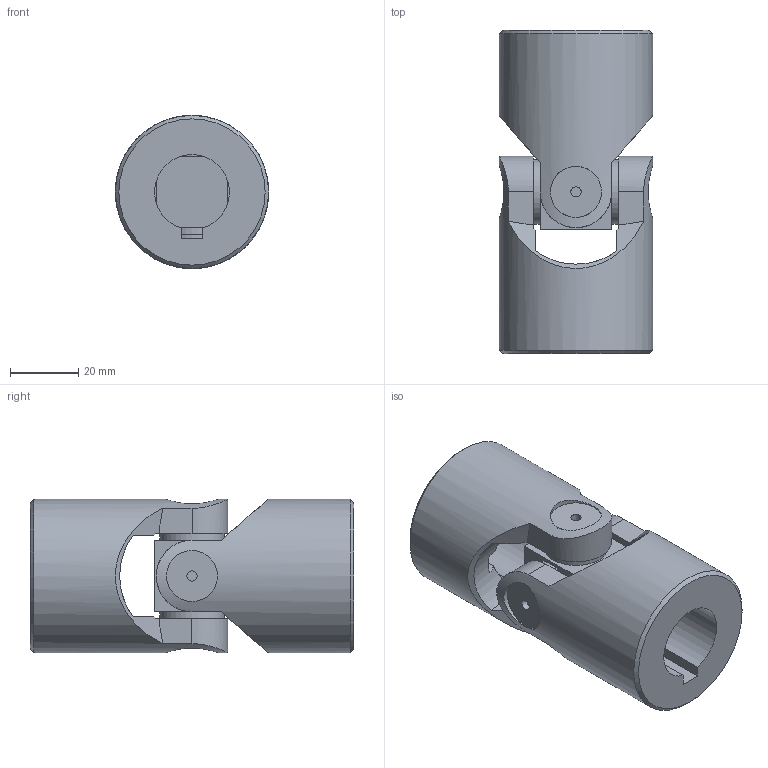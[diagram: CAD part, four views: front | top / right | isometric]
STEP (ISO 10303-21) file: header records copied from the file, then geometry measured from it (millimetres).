
FILE_DESCRIPTION(/* description */ (''),/* implementation_level */ '2;1');
FILE_NAME(/* name */ '\\SRV2016\Societa\Stefano\Disegni 3D\Dis. Clienti\0000Catalogo 3D\01Singoli G-GB\4G-2C_SG0S222C.stp',/* time_stamp */ '2021-11-10T10:33:59+01:00',/* author */ ('acquisti'),/* organization */ (''),/* preprocessor_version */ 'ST-DEVELOPER v15.6',/* originating_system */ 'Autodesk Inventor 2015',/* authorisation */ '');
FILE_SCHEMA (('AUTOMOTIVE_DESIGN { 1 0 10303 214 3 1 1 }'));
Length unit declared in the file: millimetre
Products named in the file (3): 4GA SFE; 4G MOC; Assieme1
Assembly tree (3 placements, depth 2):
  Assieme1
    4GA SFE
    4G MOC  x2
Bounding box: 45 x 95 x 45 mm (x, y, z)
Volume: 100096.3 mm3; surface area: 26429.8 mm2
Topology: 3 solids, 3 shells, 78 faces, 192 edges, 130 vertices
Faces by surface type: plane 42, cylinder 22, cone 12, torus 2
Full cylindrical faces by diameter (mm): 3 x4, 15 x4, 19 x4, 45 x2
Entity records: 1527 total; most frequent: CARTESIAN_POINT 470, DIRECTION 203, ORIENTED_EDGE 194, EDGE_CURVE 97, AXIS2_PLACEMENT_3D 85, VERTEX_POINT 73, EDGE_LOOP 66, FACE_OUTER_BOUND 46
